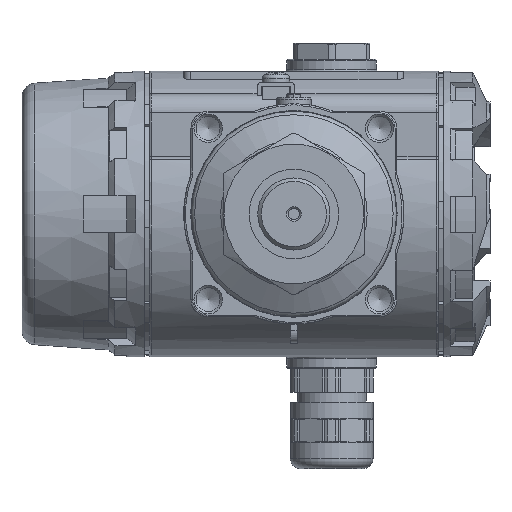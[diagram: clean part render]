
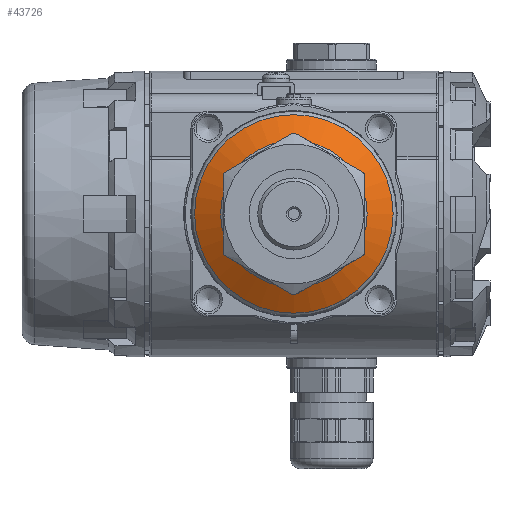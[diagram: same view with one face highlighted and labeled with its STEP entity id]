
A CAD part, front view. The second image highlights one B-rep face of the part: STEP entity #43726.
In plain terms, the highlighted conical face has half-angle 60 degrees and reference radius 25.075 mm.
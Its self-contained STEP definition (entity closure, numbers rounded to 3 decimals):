
#9915=CONICAL_SURFACE('',#46209,25.075,60.);
#10426=FACE_BOUND('',#13228,.T.);
#10764=FACE_OUTER_BOUND('',#13227,.T.);
#13227=EDGE_LOOP('',(#27371));
#13228=EDGE_LOOP('',(#27372));
#15929=CIRCLE('',#46208,21.3);
#15930=CIRCLE('',#46210,28.85);
#16898=VERTEX_POINT('',#59811);
#16899=VERTEX_POINT('',#59814);
#21047=EDGE_CURVE('',#16898,#16898,#15929,.T.);
#21048=EDGE_CURVE('',#16899,#16899,#15930,.T.);
#27371=ORIENTED_EDGE('',*,*,#21048,.F.);
#27372=ORIENTED_EDGE('',*,*,#21047,.T.);
#43726=ADVANCED_FACE('',(#10764,#10426),#9915,.T.);
#46208=AXIS2_PLACEMENT_3D('',#59812,#49398,#49399);
#46209=AXIS2_PLACEMENT_3D('',#59813,#49400,#49401);
#46210=AXIS2_PLACEMENT_3D('',#59815,#49402,#49403);
#49398=DIRECTION('center_axis',(0.,1.,0.));
#49399=DIRECTION('ref_axis',(-1.,0.,0.));
#49400=DIRECTION('center_axis',(0.,1.,0.));
#49401=DIRECTION('ref_axis',(-1.,0.,0.));
#49402=DIRECTION('center_axis',(0.,1.,0.));
#49403=DIRECTION('ref_axis',(-1.,0.,0.));
#59811=CARTESIAN_POINT('',(-21.3,-77.686,0.));
#59812=CARTESIAN_POINT('Origin',(0.,-77.686,
0.));
#59813=CARTESIAN_POINT('Origin',(0.,-75.507,
0.));
#59814=CARTESIAN_POINT('',(-28.85,-73.327,0.));
#59815=CARTESIAN_POINT('Origin',(0.,-73.327,
0.));
